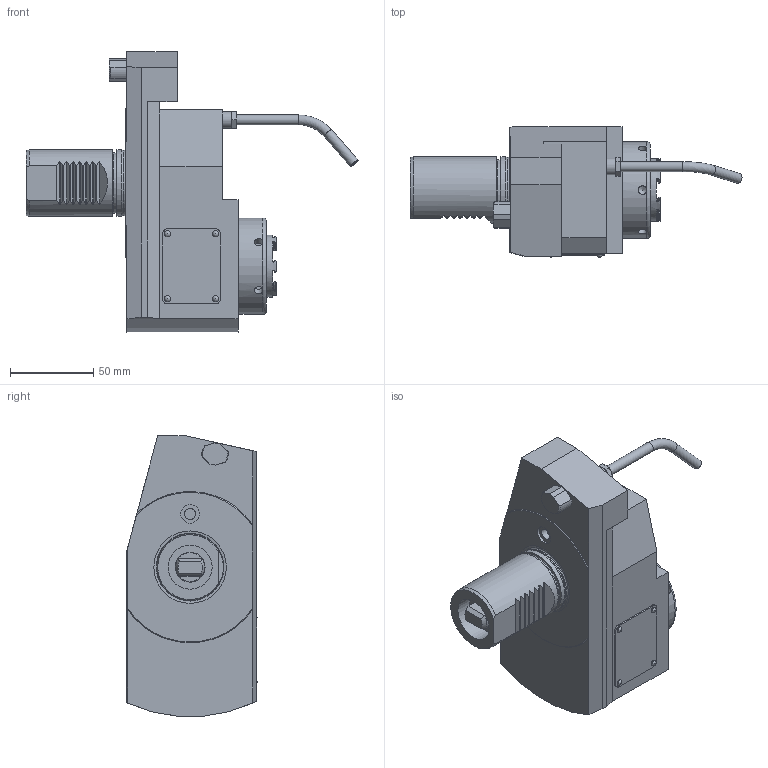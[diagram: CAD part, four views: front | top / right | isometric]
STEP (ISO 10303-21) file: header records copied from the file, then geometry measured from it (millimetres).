
FILE_DESCRIPTION(/* description */ (''),/* implementation_level */ '2;1');
FILE_NAME(/* name */ '174698',/* time_stamp */ '2018-09-12T15:09:49+02:00',/* author */ (''),/* organization */ (''),/* preprocessor_version */ 'ST-DEVELOPER v16.5',/* originating_system */ 'HiCAD 2017 2201.0 Build 268',/* authorisation */ '');
FILE_SCHEMA (('AUTOMOTIVE_DESIGN { 1 0 10303 214 1 1 1 1 }'));
Length unit declared in the file: millimetre
Products named in the file (13): Root; Leeres Teil; 112963_Spannmutter ER32 HI_QERAXC_350; 003_000X; 00011481_370; 113692_Kerbnagel 2x4_380; 112485_Überwurfschraube_351; TORUS_1_353; ROTATIONSTEIL_1_10*
Assembly tree (12 placements, depth 4):
  Root
    Leeres Teil
      112963_Spannmutter ER32 HI_QERAXC_350
        003_000X
      Leeres Teil
        00011481_370
        113692_Kerbnagel 2x4_380
        113692_Kerbnagel 2x4_380
        113692_Kerbnagel 2x4_380
        113692_Kerbnagel 2x4_380
      112485_Überwurfschraube_351
      TORUS_1_353
      ROTATIONSTEIL_1_10*
Bounding box: 199.67 x 78.3 x 168.67 mm (x, y, z)
Volume: 776592.5 mm3; surface area: 92647.6 mm2
Topology: 10 solids, 13 shells, 374 faces, 951 edges, 621 vertices
Faces by surface type: plane 201, cylinder 121, cone 27, torus 21, sphere 4
Full cylindrical faces by diameter (mm): 2 x4, 2.2 x4, 4 x2, 5.1 x6, 6 x3, 6.8 x1, 9 x1, 10 x1, 11.1 x1, 14 x1, 18 x1, 20 x2, 23.5 x1, 24 x1, 26.5 x1, 27 x2, 29 x1, 29.4 x1, 36.5 x1, 37.5 x1, 38 x1, 38.16 x1, 39.4 x1, 40 x3, 40.5 x1, 50 x1, 58 x1
Entity records: 17066 total; most frequent: CARTESIAN_POINT 8484, DIRECTION 1824, ORIENTED_EDGE 1668, EDGE_CURVE 834, AXIS2_PLACEMENT_3D 736, VERTEX_POINT 589, FACE_BOUND 493, EDGE_LOOP 487
